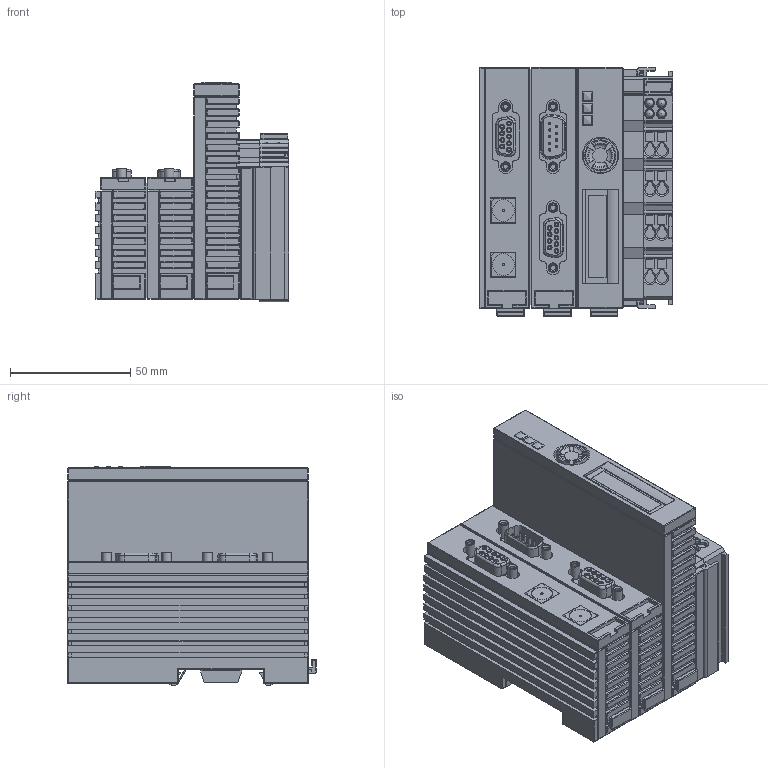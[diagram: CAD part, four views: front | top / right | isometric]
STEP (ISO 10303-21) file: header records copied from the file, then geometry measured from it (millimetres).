
FILE_DESCRIPTION(/* description */ ('Bus-Controller 81mm 3 x Dsub 8 pin ID-Switch'),/* implementation_level */ '2;1');
FILE_NAME(/* name */ 'E:\bus-controller_81mm_3xd-sub_8pin_id-switch.stp',/* time_stamp */ '2021-03-02T15:20:21+01:00',/* author */ (''),/* organization */ (''),/* preprocessor_version */ 'ST-DEVELOPER v18.1',/* originating_system */ 'Autodesk Inventor 2020',/* authorisation */ '');
FILE_SCHEMA (('CONFIG_CONTROL_DESIGN'));
Products named in the file (1): 0000004106_Bus-Controller_81mm_3xDsub_8pin_ID-Switch
Bounding box: 80.5 x 103.41 x 91.2 mm (x, y, z)
Volume: 470687 mm3; surface area: 64105.3 mm2
Topology: 1 solids, 2 shells, 3014 faces, 7898 edges, 4781 vertices
Faces by surface type: plane 1640, cylinder 1010, sphere 213, cone 66, bspline 44, torus 41
Full cylindrical faces by diameter (mm): 0.984 x2, 1.01 x9, 1.2 x18, 2.156 x6, 3 x4, 3.6 x4, 4 x6, 4.2 x4, 9 x3
Entity records: 95798 total; most frequent: CARTESIAN_POINT 18779, DIRECTION 15549, ORIENTED_EDGE 15398, EDGE_CURVE 7699, LINE 5463, VECTOR 5463, AXIS2_PLACEMENT_3D 5043, VERTEX_POINT 4781
